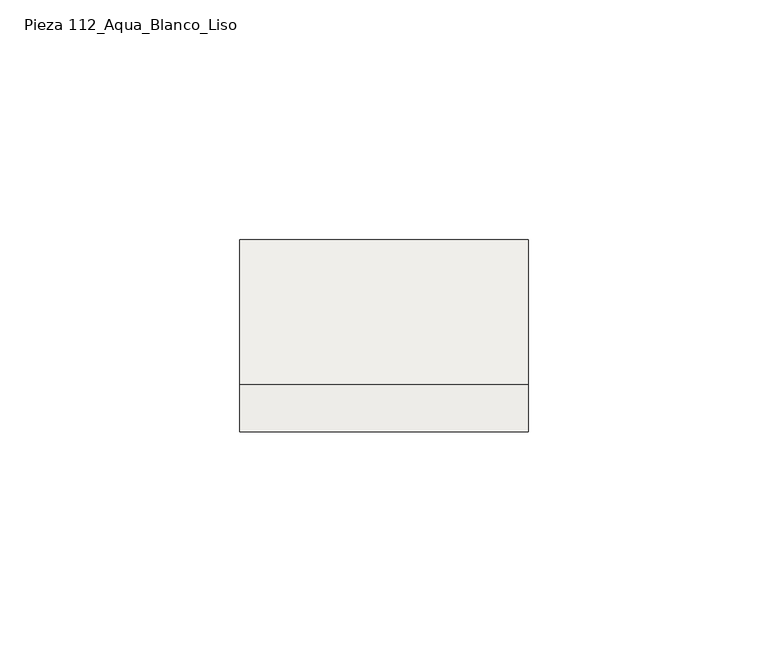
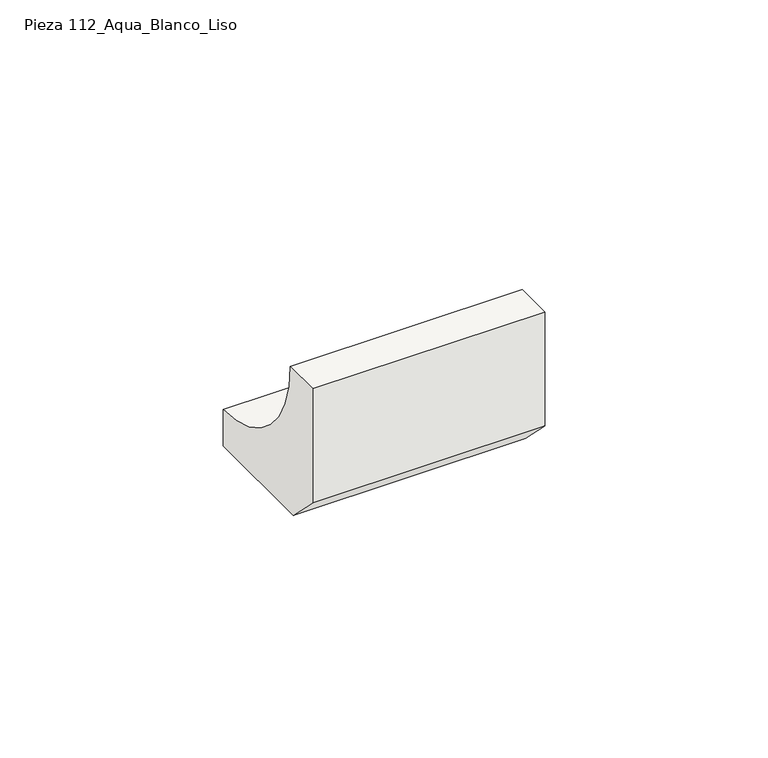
"""IFC4 building model written with IfcOpenShell, lengths in millimetres: slab geometry, ROSA GRES_112 : Pieza 112_Aqua_Blanco_Liso."""

from ifc_helpers import new_model, si_unit, point, frame, frame_2d, origin, place, context, project, spatial, polyline, circle_curve, trimmed, segment, composite_curve, outline, extrude, source, transform, mapped, element, save


def pieza_112_aqua_blanco_liso_20f7969e(model_context):
    return source(origin(), model_context, "Body", "SweptSolid", [
        extrude(outline(composite_curve([segment(polyline([(-9.9734114, 8.7114978), (-9.9734114, 40.0), (0.0, 40.0)]), True, "CONTINUOUS"), segment(trimmed(circle_curve(frame_2d((30.0221432, 39.9955547)), 30.0221435), [point((0.0, 40.0))], [point((30.0265886, 9.9734114))], True, "CARTESIAN"), True, "CONTINUOUS"), segment(polyline([(30.0265886, 9.9734114), (30.0265886, 0.0), (-1.2619137, 0.0), (-9.9734114, 8.7114978)]), True, "CONTINUOUS")], self_intersect=False)), frame((0.0, 0.0, 0.0), z_axis=(1.0, 0.0, 0.0), x_axis=(0.0, 1.0, 0.0)), (0.0, 0.0, 1.0), 60.0265883),
    ])


if __name__ == "__main__":
    model = new_model("IFC4")
    model_context = context("Model", 3, world=origin())
    ifc_project = project(units=[si_unit("LENGTHUNIT", "METRE", prefix="MILLI")], contexts=[model_context])
    site = spatial("IfcSite", under=ifc_project)
    building = spatial("IfcBuilding", under=site)
    placement = place(None, origin())
    pieza_112_aqua_blanco_liso_shape = pieza_112_aqua_blanco_liso_20f7969e(model_context)
    element("IfcSlab", 1, ObjectType="ROSA GRES_112 : Pieza 112_Aqua_Blanco_Liso", at=placement, inside=building, context=model_context, shape_type="MappedRepresentation", body=[
        mapped(pieza_112_aqua_blanco_liso_shape, transform((0.0, 0.0, 0.0), x_axis=(1.0, 0.0, 0.0), y_axis=(0.0, 1.0, 0.0), z_axis=(0.0, 0.0, 1.0))),
    ])
    save(model, "model.ifc")
